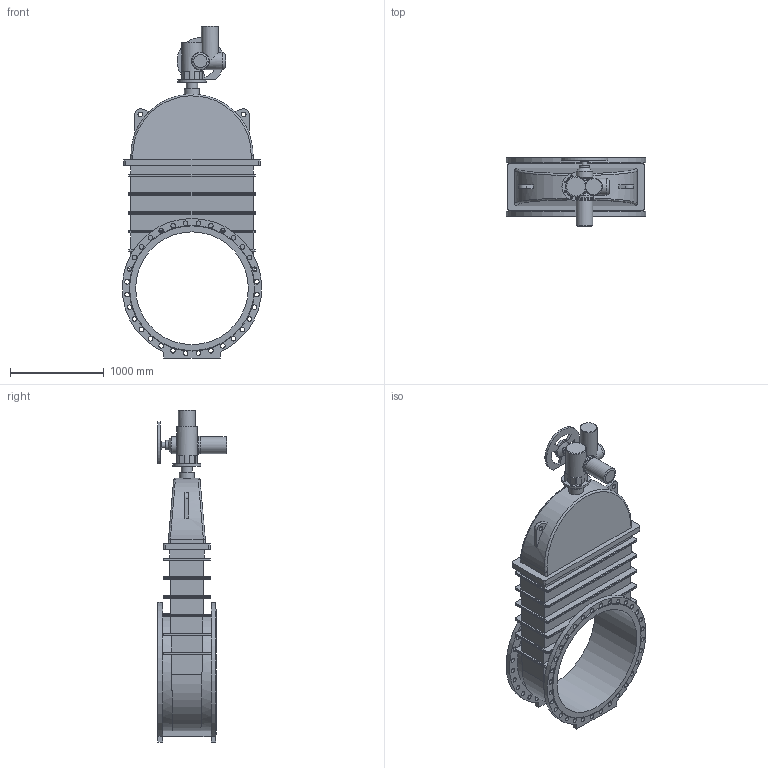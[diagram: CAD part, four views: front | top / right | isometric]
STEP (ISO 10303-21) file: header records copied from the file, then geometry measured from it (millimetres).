
FILE_DESCRIPTION(('STEP AP203'), '1');
FILE_NAME('青溻桄赅 47GVA.Z DN1200 PN16 +MT903.A100', '', ('UNSPECIFIED'), ('UNSPECIFIED'), 'ASCON STEP Converter 1.6', 'ASCON Math Kernel', '');
FILE_SCHEMA(('CONFIG_CONTROL_DESIGN'));
Length unit declared in the file: millimetre
Bounding box: 1483.95 x 740 x 3533.5 mm (x, y, z)
Volume: 877818741.4 mm3; surface area: 16222591.4 mm2
Topology: 2 solids, 2 shells, 456 faces, 1161 edges, 738 vertices
Faces by surface type: cylinder 223, plane 171, bspline 50, cone 11, torus 1
Full cylindrical faces by diameter (mm): 17.5 x4, 18 x8, 20 x4, 49 x64, 50 x3, 60 x1, 100 x1, 120 x1, 130 x1, 140 x1, 160 x1, 180 x4, 187 x1, 191 x1, 200 x1, 220 x1, 300 x1, 1200 x1
Entity records: 23318 total; most frequent: CARTESIAN_POINT 9061, ORIENTED_EDGE 2100, DIRECTION 2059, EDGE_CURVE 1050, AXIS2_PLACEMENT_3D 785, EDGE_LOOP 759, VERTEX_POINT 737, FACE_BOUND 549
